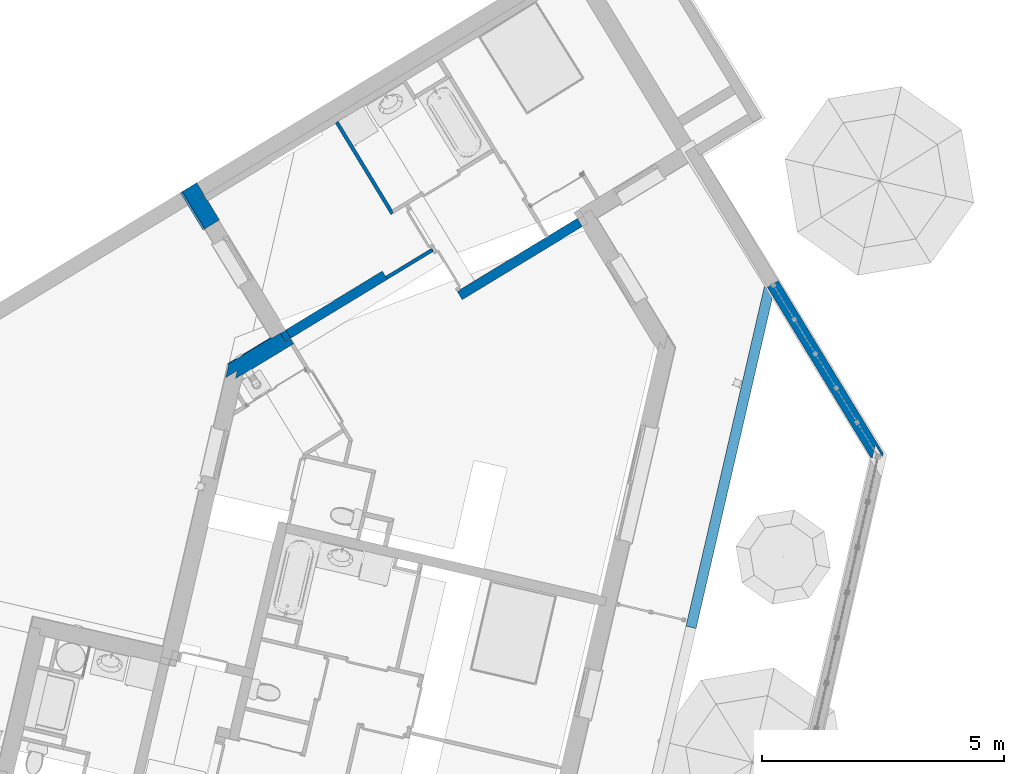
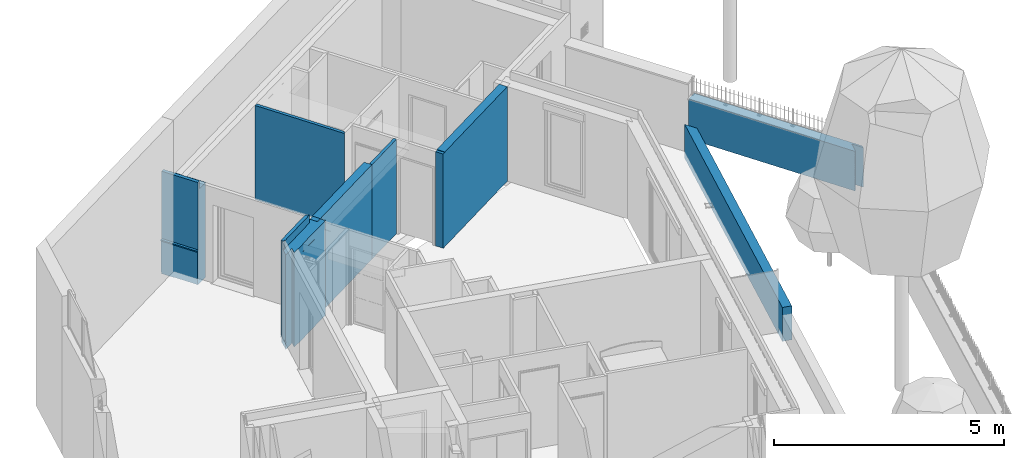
# One storey, part 62 of 119: 9 walls.
"""IFC2X3 building model written with IfcOpenShell, lengths in metres."""

from ifc_helpers import new_model, entity, si_unit, converted_unit, derived_unit, money_unit, direction, frame, origin_with_axes, place, context, subcontext, project, spatial, faceted_brep, material, material_list, type_object, element, save


model = new_model("IFC2X3")

# Units and contexts
model_context = context("Model", 3, precision=1e-05, world=origin_with_axes(), true_north=direction((0.0, 1.0)))
body_context = subcontext(model_context, "Body", "Model", "MODEL_VIEW")
ifc_project = project(units=[si_unit("LENGTHUNIT", "METRE"), si_unit("AREAUNIT", "SQUARE_METRE"), si_unit("VOLUMEUNIT", "CUBIC_METRE"), converted_unit("PLANEANGLEUNIT", "DEGREE", entity("IfcPlaneAngleMeasure", 0.0174532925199), si_unit("PLANEANGLEUNIT", "RADIAN"), dimensions=[0, 0, 0, 0, 0, 0, 0]), si_unit("SOLIDANGLEUNIT", "STERADIAN"), money_unit("EUR"), converted_unit("TIMEUNIT", "Year", entity("IfcTimeMeasure", 31556926.0), si_unit("TIMEUNIT", "SECOND"), dimensions=[0, 0, 1, 0, 0, 0, 0]), si_unit("MASSUNIT", "GRAM", prefix="KILO"), si_unit("THERMODYNAMICTEMPERATUREUNIT", "DEGREE_CELSIUS"), si_unit("LUMINOUSINTENSITYUNIT", "LUMEN"), si_unit("ENERGYUNIT", "JOULE", prefix="MEGA"), derived_unit("THERMALCONDUCTANCEUNIT", [(si_unit("POWERUNIT", "WATT"), 1), (si_unit("LENGTHUNIT", "METRE"), -1), (si_unit("THERMODYNAMICTEMPERATUREUNIT", "KELVIN"), -1)]), derived_unit("SPECIFICHEATCAPACITYUNIT", [(si_unit("ENERGYUNIT", "JOULE"), 1), (si_unit("MASSUNIT", "GRAM", prefix="KILO"), -1), (si_unit("THERMODYNAMICTEMPERATUREUNIT", "KELVIN"), -1)]), derived_unit("MASSDENSITYUNIT", [(si_unit("MASSUNIT", "GRAM", prefix="KILO"), 1), (si_unit("VOLUMEUNIT", "CUBIC_METRE"), -1)])], contexts=[model_context])

# Site, building, storey
site_placement = place(None, origin_with_axes())
site = spatial("IfcSite", under=ifc_project, at=site_placement, Name="Site", CompositionType="ELEMENT")
building_placement = place(site_placement, origin_with_axes())
building = spatial("IfcBuilding", under=site, at=building_placement, Name="Bâtiment", CompositionType="ELEMENT")
storey_placement = place(building_placement, origin_with_axes())
storey = spatial("IfcBuildingStorey", under=building, at=storey_placement, Name="Rez-de-chaussée", CompositionType="ELEMENT", Elevation=0.0)

# Walls
ifc_material_1 = material(Name="Finition int - Plaque de plâtre")
ifc_material_2 = material(Name="Isolation - Laine de roche")
ifc_material_list_1 = material_list([ifc_material_1, ifc_material_2, ifc_material_1])
wall_type_1 = type_object("IfcWallType", Name="3 - Cloison 72mm Placostil 74", PredefinedType="USERDEFINED")
wall_1_placement = place(storey_placement, frame((-4.6808075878, 22.6813548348, 0.0), z_axis=(0.0, 0.0, 1.0), x_axis=(0.519386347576, -0.854539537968, 0.0)))
element("IfcWall", 1, at=wall_1_placement, inside=storey, type_object=wall_type_1, material=ifc_material_list_1, Name="Cloison Placostil 72/48", ObjectType="PARTITIONING", context=body_context, shape_type="Brep", body=[
    faceted_brep([(2.23260722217, 0.074, 0.0), (0.0848634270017, 0.074, 0.0), (0.0848634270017, 0.074, 2.5), (2.23260722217, 0.074, 2.5), (2.23260722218, 0.061, 0.0), (0.0848634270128, 0.061, 0.0), (0.0848634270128, 0.061, 2.5), (2.23260722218, 0.061, 2.5)], [[[0, 1, 2, 3]], [[4, 5, 1, 0]], [[5, 6, 2, 1]], [[3, 2, 6, 7]], [[7, 4, 0, 3]], [[7, 6, 5, 4]]]),
    faceted_brep([(2.28060722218, 0.061, 0.0), (0.07486345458, 0.061, 0.0), (0.07486345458, 0.061, 2.5), (2.28060722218, 0.061, 2.5), (2.28060722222, 0.013, 0.0), (0.074863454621, 0.013, 0.0), (0.074863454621, 0.013, 2.5), (2.28060722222, 0.013, 2.5)], [[[0, 1, 2, 3]], [[4, 5, 1, 0]], [[5, 6, 2, 1]], [[3, 2, 6, 7]], [[7, 4, 0, 3]], [[7, 6, 5, 4]]]),
    faceted_brep([(2.29360722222, 0.013, 0.0), (0.0848634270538, 0.013, 0.0), (0.0848634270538, 0.013, 2.5), (2.29360722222, 0.013, 2.5), (2.29360722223, 0.0, 0.0), (0.084863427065, 0.0, 0.0), (0.084863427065, 0.0, 2.5), (2.29360722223, 0.0, 2.5)], [[[0, 1, 2, 3]], [[4, 5, 1, 0]], [[5, 6, 2, 1]], [[3, 2, 6, 7]], [[7, 4, 0, 3]], [[7, 6, 5, 4]]]),
])
wall_2_placement = place(storey_placement, frame((-3.56494758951, 19.3871585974, 0.0), z_axis=(0.0, 0.0, 1.0), x_axis=(0.854539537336, 0.519386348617, 0.0)))
element("IfcWall", 2, at=wall_2_placement, inside=storey, type_object=wall_type_1, material=ifc_material_list_1, Name="Cloison Placostil 72/48", ObjectType="PARTITIONING", context=body_context, shape_type="Brep", body=[
    faceted_brep([(1.1053873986, 0.074, 0.0), (1.1053873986, 0.061, 0.0), (0.0, 0.061, 0.0), (0.0, 0.074, 0.0), (1.1053873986, 0.074, 2.5), (1.1053873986, 0.061, 2.5), (0.0, 0.061, 2.5), (0.0, 0.074, 2.5)], [[[0, 1, 2, 3]], [[1, 0, 4, 5]], [[1, 5, 6, 2]], [[7, 3, 2, 6]], [[4, 0, 3, 7]], [[5, 4, 7, 6]]]),
    faceted_brep([(1.1183873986, 0.061, 0.0), (1.11838739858, 0.013, 0.0), (0.0, 0.013, 0.0), (0.0, 0.061, 0.0), (1.1183873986, 0.061, 2.5), (1.11838739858, 0.013, 2.5), (0.0, 0.013, 2.5), (0.0, 0.061, 2.5)], [[[0, 1, 2, 3]], [[1, 0, 4, 5]], [[1, 5, 6, 2]], [[7, 3, 2, 6]], [[4, 0, 3, 7]], [[5, 4, 7, 6]]]),
    faceted_brep([(1.10538739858, 0.013, 0.0), (1.10538739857, 0.0, 0.0), (0.0, 0.0, 0.0), (0.0, 0.013, 0.0), (1.10538739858, 0.013, 2.5), (1.10538739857, 0.0, 2.5), (0.0, 0.0, 2.5), (0.0, 0.013, 2.5)], [[[0, 1, 2, 3]], [[1, 0, 4, 5]], [[1, 5, 6, 2]], [[7, 3, 2, 6]], [[4, 0, 3, 7]], [[5, 4, 7, 6]]]),
])
ifc_material_3 = material(Name="Finition int - Enduit plâtre")
ifc_material_4 = material(Name="Béton")
ifc_material_list_2 = material_list([ifc_material_3, ifc_material_4, ifc_material_3])
wall_type_2 = type_object("IfcWallType", Name="2 - Murs Béton 18 + Enduit 2 Faces 200", PredefinedType="USERDEFINED")
wall_3_placement = place(storey_placement, frame((0.460673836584, 20.4759744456, 0.0), z_axis=(0.0, 0.0, 1.0), x_axis=(-0.854539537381, -0.519386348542, 0.0)))
element("IfcWall", 3, at=wall_3_placement, inside=storey, type_object=wall_type_2, material=ifc_material_list_2, Name="M_Ext-008", ObjectType="SOLIDWALL", context=body_context, shape_type="Brep", body=[
    faceted_brep([(0.0, -0.01, 2.51), (0.0, 0.0, 2.51), (0.0, 0.0, 0.0), (0.0, -0.01, 0.0), (2.82618136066, 0.0, 2.51), (2.82618136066, -0.01, 2.51), (2.82618136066, 0.0, 2.5), (2.90018136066, 0.0, 2.5), (2.90018136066, 0.0, 0.0), (2.90018136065, -0.01, 0.0), (2.90018136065, -0.01, 2.5), (2.82618136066, -0.01, 2.5)], [[[0, 1, 2, 3]], [[4, 1, 0, 5]], [[1, 4, 6, 7, 8, 2]], [[2, 8, 9, 3]], [[5, 0, 3, 9, 10, 11]], [[4, 5, 11, 6]], [[11, 10, 7, 6]], [[9, 8, 7, 10]]]),
    faceted_brep([(0.0, -0.19, 2.51), (0.0, -0.01, 2.51), (0.0, -0.01, 0.0), (0.0, -0.19, 0.0), (2.82618136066, -0.01, 2.51), (2.82618136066, -0.19, 2.51), (2.82618136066, -0.01, 2.5), (2.90018136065, -0.01, 2.5), (2.90018136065, -0.01, 0.0), (2.90018136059, -0.19, 0.0), (2.90018136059, -0.19, 2.5), (2.82618136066, -0.19, 2.5)], [[[0, 1, 2, 3]], [[4, 1, 0, 5]], [[1, 4, 6, 7, 8, 2]], [[2, 8, 9, 3]], [[5, 0, 3, 9, 10, 11]], [[4, 5, 11, 6]], [[11, 10, 7, 6]], [[9, 8, 7, 10]]]),
    faceted_brep([(0.0, -0.2, 2.51), (0.0, -0.19, 2.51), (0.0, -0.19, 0.0), (0.0, -0.2, 0.0), (2.82618136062, -0.19, 2.51), (2.82618136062, -0.2, 2.51), (2.82618136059, -0.19, 2.5), (2.82618136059, -0.19, 0.0), (2.82618136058, -0.2, 0.0), (2.82618136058, -0.2, 2.5)], [[[0, 1, 2, 3]], [[4, 1, 0, 5]], [[1, 4, 6, 7, 2]], [[2, 7, 8, 3]], [[5, 0, 3, 8, 9]], [[4, 5, 9, 6]], [[8, 7, 6, 9]]]),
])
wall_4_placement = place(storey_placement, frame((-5.6582784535, 18.3366933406, 0.0), z_axis=(0.0, 0.0, 1.0), x_axis=(0.854539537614, 0.51938634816, 0.0)))
element("IfcWall", 4, at=wall_4_placement, inside=storey, type_object=wall_type_2, material=ifc_material_list_2, Name="M_Ext-008", ObjectType="SOLIDWALL", context=body_context, shape_type="Brep", body=[
    faceted_brep([(2.33443130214, 0.01, 2.51), (2.33443130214, 0.0, 2.51), (2.33443130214, 0.0, 0.0), (2.33443130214, 0.01, 0.0), (0.0, 0.0, 2.51), (0.0, 0.01, 2.51), (0.0, 0.0, 0.0), (0.0, 0.01, 0.0)], [[[0, 1, 2, 3]], [[4, 1, 0, 5]], [[1, 4, 6, 2]], [[7, 3, 2, 6]], [[5, 0, 3, 7]], [[4, 5, 7, 6]]]),
    faceted_brep([(2.33443130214, 0.0, 2.51), (2.33443130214, -0.18, 2.51), (2.33443130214, -0.18, 0.0), (2.33443130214, 0.0, 0.0), (0.0, -0.18, 2.51), (0.0, 0.0, 2.51), (0.0, -0.18, 0.0), (0.0, 0.0, 0.0)], [[[0, 1, 2, 3]], [[4, 1, 0, 5]], [[1, 4, 6, 2]], [[7, 3, 2, 6]], [[5, 0, 3, 7]], [[4, 5, 7, 6]]]),
    faceted_brep([(2.33443130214, -0.18, 2.51), (2.33443130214, -0.19, 2.51), (2.33443130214, -0.19, 0.0), (2.33443130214, -0.18, 0.0), (0.0, -0.19, 2.51), (0.0, -0.18, 2.51), (0.0, -0.19, 0.0), (0.0, -0.18, 0.0)], [[[0, 1, 2, 3]], [[4, 1, 0, 5]], [[1, 4, 6, 2]], [[7, 3, 2, 6]], [[5, 0, 3, 7]], [[4, 5, 7, 6]]]),
])
wall_type_3 = type_object("IfcWallType", Name="Béton 180", PredefinedType="USERDEFINED")
wall_5_placement = place(storey_placement, frame((-5.76936854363, 18.2691731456, 0.0), z_axis=(0.0, 0.0, 1.0), x_axis=(0.854539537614, 0.51938634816, 0.0)))
element("IfcWall", 5, at=wall_5_placement, inside=storey, type_object=wall_type_3, material=ifc_material_4, Name="M_Ext-008", ObjectType="SOLIDWALL", context=body_context, shape_type="Brep", body=[
    faceted_brep([(0.129999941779, 0.0, 0.0), (0.129999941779, 0.0, 2.51), (0.129999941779, -0.18, 2.51), (0.129999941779, -0.18, 0.0), (0.0, 0.0, 0.0), (0.0, 0.0, 2.51), (0.0, -0.18, 2.51), (0.0, -0.18, 0.0)], [[[0, 1, 2, 3]], [[4, 5, 1, 0]], [[5, 6, 2, 1]], [[3, 2, 6, 7]], [[7, 4, 0, 3]], [[7, 6, 5, 4]]]),
])
ifc_material_5 = material(Name="Isolation - Polystyrène extrudé")
ifc_material_6 = material(Name="Bloc ELITHERM")
ifc_material_7 = material(Name="Isolation - Polystyrène expansé")
ifc_material_8 = material(Name="Mortier")
ifc_material_9 = material(Name="Béton cellulaire")
ifc_material_10 = material(Name="Etanchéité - Bitume")
ifc_material_11 = material(Name="Finition ext - Crépis")
ifc_material_12 = material(Name="Métal - Aluminium")
ifc_material_list_3 = material_list([ifc_material_1, ifc_material_5, ifc_material_6, ifc_material_7, ifc_material_8, ifc_material_9, ifc_material_10, ifc_material_11, ifc_material_12])
wall_type_4 = type_object("IfcWallType", Name="Mur ALKERN + planelle 21 TERRASSE RDC 356 x 2720", PredefinedType="USERDEFINED")
wall_6_placement = place(storey_placement, frame((-5.98668813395, 18.1838958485, 0.0), z_axis=(0.0, 0.0, 1.0), x_axis=(-0.854539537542, -0.519386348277, 0.0)))
element("IfcWall", 6, at=wall_6_placement, inside=storey, type_object=wall_type_4, material=ifc_material_list_3, Name="Mue bloc ALKERN isolé", ObjectType="SOLIDWALL", context=body_context, shape_type="Brep", body=[
    faceted_brep([(0.662427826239, 0.359999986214, 2.50955001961), (0.66243211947, 0.352858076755, 2.50955001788), (-0.360000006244, 0.359999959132, 2.50955002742), (-0.360000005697, 0.350000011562, 2.50955002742), (0.878801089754, 0.350000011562, 2.50955001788), (0.888555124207, 0.359999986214, 2.50955001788), (0.662427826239, 0.359999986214, 2.31), (0.66243211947, 0.352858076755, 2.31), (-0.360000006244, 0.359999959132, 2.31), (-0.360000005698, 0.359999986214, 0.0), (-0.360000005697, 0.350000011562, 0.0), (0.878801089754, 0.350000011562, 0.176532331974), (0.878801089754, 0.350000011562, 0.207793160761), (0.878801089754, 0.350000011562, 0.0), (0.878801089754, 0.350000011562, 0.133633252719), (0.878801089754, 0.350000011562, 0.160000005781), (0.878801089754, 0.350000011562, 0.169414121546), (0.888555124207, 0.359999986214, 0.207793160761), (0.888555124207, 0.359999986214, 0.176532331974), (0.888555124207, 0.359999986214, 0.169414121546), (0.888555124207, 0.359999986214, 0.160000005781), (0.888555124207, 0.359999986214, 0.133633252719), (0.888555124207, 0.359999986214, 0.0)], [[[0, 1, 2, 3, 4, 5]], [[1, 0, 6, 7]], [[8, 2, 1, 7]], [[2, 8, 9, 10, 3]], [[11, 12, 4, 3, 10, 13, 14, 15, 16]], [[17, 5, 4, 12]], [[6, 0, 5, 17, 18, 19, 20, 21, 22, 9, 8]], [[6, 8, 7]], [[22, 13, 10, 9]], [[18, 17, 12, 11]], [[14, 13, 22, 21]], [[15, 14, 21, 20]], [[19, 16, 15, 20]], [[18, 11, 16, 19]]]),
    faceted_brep([(-0.350000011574, 0.350000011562, 0.176532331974), (-0.350000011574, 0.350000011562, 0.207793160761), (-0.350000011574, 0.350000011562, 2.50955001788), (1.04643285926, 0.350000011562, 2.50955001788), (1.04643285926, 0.350000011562, 0.207793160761), (1.04643285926, 0.350000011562, 0.176532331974), (1.04643285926, 0.350000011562, 0.169414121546), (1.04643285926, 0.350000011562, 0.160000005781), (1.04643285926, 0.350000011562, 0.133633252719), (1.04643285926, 0.350000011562, 0.0), (-0.350000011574, 0.350000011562, 0.0), (-0.350000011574, 0.350000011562, 0.133633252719), (-0.350000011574, 0.350000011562, 0.160000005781), (-0.350000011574, 0.350000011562, 0.169414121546), (-0.35000001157, 0.22999997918, 0.176532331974), (-0.35000001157, 0.22999997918, 0.207793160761), (-0.35000001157, 0.22999997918, 2.50955001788), (0.929384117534, 0.22999997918, 2.50955001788), (0.929384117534, 0.22999997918, 0.207793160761), (0.929384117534, 0.22999997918, 0.176532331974), (0.929384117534, 0.22999997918, 0.169414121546), (0.929384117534, 0.22999997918, 0.160000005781), (0.929384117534, 0.22999997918, 0.133633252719), (0.929384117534, 0.22999997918, 0.0), (-0.35000001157, 0.22999997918, 0.0), (-0.35000001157, 0.22999997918, 0.133633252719), (-0.35000001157, 0.22999997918, 0.160000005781), (-0.35000001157, 0.22999997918, 0.169414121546)], [[[0, 1, 2, 3, 4, 5, 6, 7, 8, 9, 10, 11, 12, 13]], [[14, 15, 1, 0]], [[15, 16, 2, 1]], [[3, 2, 16, 17]], [[18, 4, 3, 17]], [[19, 5, 4, 18]], [[6, 5, 19, 20]], [[7, 6, 20, 21]], [[7, 21, 22, 8]], [[8, 22, 23, 9]], [[24, 10, 9, 23]], [[11, 10, 24, 25]], [[12, 11, 25, 26]], [[27, 13, 12, 26]], [[14, 0, 13, 27]], [[17, 16, 15, 14, 27, 26, 25, 24, 23, 22, 21, 20, 19, 18]]]),
    faceted_brep([(-0.229999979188, 0.229999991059, 0.207793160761), (-0.229999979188, 0.229999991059, 2.50955001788), (1.20877035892, 0.229999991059, 2.50955), (1.20877030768, 0.229999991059, 0.207793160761), (1.20731000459, 0.229999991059, 0.207793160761), (1.20731000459, 0.229999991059, 0.176532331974), (1.20731000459, 0.229999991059, 0.169727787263), (1.2087703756, 0.229999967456, 0.169414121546), (1.20877033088, 0.229999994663, 0.160000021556), (1.20877033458, 0.229999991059, 0.133633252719), (1.20877033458, 0.229999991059, 0.0), (-0.229999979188, 0.229999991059, 0.0), (-0.229999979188, 0.229999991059, 0.133633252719), (-0.229999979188, 0.229999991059, 0.160000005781), (-0.229999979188, 0.229999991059, 0.169414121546), (-0.229999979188, 0.229999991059, 0.176532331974), (-0.229999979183, 0.0979999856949, 2.50955001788), (-0.229999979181, 0.0310453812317, 0.207793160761), (-0.229999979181, 0.03, 0.207793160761), (-0.229999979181, 0.03, 2.50955001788), (1.08001677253, 0.0979999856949, 2.50955), (1.01368918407, 0.03, 2.50955), (1.01368913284, 0.03, 0.207793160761), (1.01470880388, 0.0310453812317, 0.207793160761), (1.01324850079, 0.0310453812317, 0.207793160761), (1.01324850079, 0.0310453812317, 0.176532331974), (1.01324850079, 0.0310453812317, 0.169727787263), (1.01368920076, 0.029999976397, 0.169414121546), (1.01368916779, 0.0300000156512, 0.160000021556), (1.01368917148, 0.0300000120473, 0.133633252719), (1.01368915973, 0.03, 0.0), (-0.229999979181, 0.03, 0.0), (-0.229999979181, 0.0300000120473, 0.133633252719), (-0.229999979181, 0.0300000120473, 0.160000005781), (-0.229999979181, 0.0300000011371, 0.169414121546), (-0.229999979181, 0.0310453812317, 0.169727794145), (-0.229999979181, 0.0310453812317, 0.176532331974)], [[[0, 1, 2, 3, 4, 5, 6, 7, 8, 9, 10, 11, 12, 13, 14, 15]], [[16, 1, 0, 17, 18, 19]], [[1, 16, 20, 2]], [[3, 2, 20, 21, 22, 23]], [[24, 4, 3, 23]], [[4, 24, 25, 5]], [[6, 5, 25, 26]], [[6, 26, 27, 7]], [[8, 7, 27, 28]], [[8, 28, 29, 9]], [[9, 29, 30, 10]], [[11, 10, 30, 31]], [[11, 31, 32, 12]], [[12, 32, 33, 13]], [[14, 13, 33, 34]], [[14, 34, 35, 36, 15]], [[17, 0, 15, 36]], [[18, 17, 24, 23, 22]], [[19, 18, 22, 21]], [[16, 19, 21, 20]], [[26, 25, 24, 17, 36, 35]], [[34, 27, 26, 35]], [[28, 27, 34, 33]], [[29, 28, 33, 32, 31, 30]]]),
    faceted_brep([(-0.0980000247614, 0.0780000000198, 2.51999998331), (0.993455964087, 0.0780000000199, 2.51999999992), (0.993455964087, 0.0780000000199, 2.72), (-0.0980000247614, 0.0780000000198, 2.72), (-0.0980000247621, 0.0980000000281, 2.51999998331), (1.01296408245, 0.0980000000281, 2.51999999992), (1.01296408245, 0.0980000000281, 2.72), (-0.0980000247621, 0.0980000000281, 2.72)], [[[0, 1, 2, 3]], [[4, 5, 1, 0]], [[5, 6, 2, 1]], [[3, 2, 6, 7]], [[4, 0, 3, 7]], [[7, 6, 5, 4]]]),
    faceted_brep([(1.01368918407, 0.03, 2.50955), (1.01368918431, 0.03, 2.51999999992), (-0.0980000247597, 0.03, 2.51999998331), (-0.0979999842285, 0.03, 2.50955002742), (1.08001678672, 0.098, 2.51999999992), (1.08001678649, 0.098, 2.50955), (-0.0980000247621, 0.098, 2.51999998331), (-0.0979999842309, 0.098, 2.50955002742)], [[[0, 1, 2, 3]], [[4, 1, 0, 5]], [[1, 4, 6, 2]], [[2, 6, 7, 3]], [[5, 0, 3, 7]], [[4, 5, 7, 6]]]),
    faceted_brep([(-0.0780000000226, 0.0780000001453, 2.51999999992), (-0.0780000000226, 0.0780000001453, 2.72), (1.06050867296, 0.0780000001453, 2.72), (1.0605086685, 0.0780000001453, 2.51999999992), (-0.0780000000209, 0.03, 2.72), (-0.0780000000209, 0.03, 2.51999999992), (1.01368918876, 0.03, 2.72), (1.01368918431, 0.03, 2.51999999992)], [[[0, 1, 2, 3]], [[4, 1, 0, 5]], [[1, 4, 6, 2]], [[2, 6, 7, 3]], [[5, 0, 3, 7]], [[4, 5, 7, 6]]]),
    faceted_brep([(1.02765848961, 0.0300000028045, 0.01), (1.01368916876, 0.0300000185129, 0.01), (-0.030000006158, 0.0300000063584, 0.01), (-0.0300000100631, 0.0300000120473, 0.133633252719), (-0.0300000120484, 0.0300000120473, 0.160000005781), (1.02765850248, 0.0300000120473, 0.160000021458), (1.02765849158, 0.0300000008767, 0.133633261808), (-0.0300001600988, 0.02, 0.01), (1.01790442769, 0.02, 0.01), (-0.0300000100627, 0.02, 0.133633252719), (-0.030000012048, 0.02, 0.160000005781), (1.01790443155, 0.02, 0.160000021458), (1.0179044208, 0.0199999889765, 0.133633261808)], [[[0, 1, 2, 3, 4, 5, 6]], [[7, 2, 1, 0, 8]], [[2, 7, 9, 3]], [[4, 3, 9, 10]], [[10, 11, 5, 4]], [[11, 12, 6, 5]], [[8, 0, 6, 12]], [[7, 8, 12, 11, 10, 9]]]),
    faceted_brep([(-0.0300000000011, 0.0299999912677, 2.72), (1.03464314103, 0.0299999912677, 2.72), (1.03464318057, 0.0300000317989, 0.176532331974), (-0.0300000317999, 0.0300000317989, 0.176532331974), (-0.0300000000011, 0.0300000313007, 0.207793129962), (-0.0300000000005, 0.0150000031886, 2.72), (1.02001206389, 0.0150000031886, 2.72), (1.02001206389, 0.0150000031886, 0.176532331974), (-0.0300000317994, 0.0150000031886, 0.176532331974), (-0.0300000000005, 0.0150000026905, 0.207793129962)], [[[0, 1, 2, 3, 4]], [[1, 0, 5, 6]], [[7, 2, 1, 6]], [[7, 8, 3, 2]], [[8, 9, 4, 3]], [[9, 5, 0, 4]], [[6, 5, 9, 8, 7]]]),
    faceted_brep([(-0.0310453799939, 0.0310453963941, 0.176532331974), (-0.0310453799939, 0.0310453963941, 0.207793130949), (1.01470881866, 0.0310453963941, 0.207793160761), (1.01470881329, 0.0310453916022, 0.176532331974), (1.01470880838, 0.0310453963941, 0.170774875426), (1.01963929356, 0.0310453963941, 0.169727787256), (-0.0310453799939, 0.0310453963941, 0.169727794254), (-0.0310453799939, 0.03, 0.207793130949), (-0.0310453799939, 0.0300000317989, 0.176532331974), (1.01368913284, 0.03, 0.207793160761), (1.01368915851, 0.0300000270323, 0.176532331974), (1.0136891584, 0.0300000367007, 0.170774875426), (1.02483397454, 0.0035607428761, 0.162931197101), (1.02954457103, 0.00839011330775, 0.162931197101), (1.02009653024, 0.03, 0.169414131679), (-0.0300000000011, 0.03, 0.169414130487), (-0.0310453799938, 0.0264705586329, 0.169727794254), (-0.0310453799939, 0.0300000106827, 0.170774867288), (-0.0083901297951, 0.0035607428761, 0.162931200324), (-0.0300000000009, 0.0254132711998, 0.169414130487), (1.02603770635, 0.00479482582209, 0.133633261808), (1.02603770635, 0.00479482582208, 0.161852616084), (1.02483397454, 0.0035607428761, 0.133633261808), (-0.00479484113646, 0.00479482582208, 0.161852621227), (-0.00479484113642, 0.0035607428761, 0.161852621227), (-0.00479484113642, 0.0035607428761, 0.160000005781), (-0.00479484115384, 0.0035607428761, 0.133633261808), (-0.00479484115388, 0.00479482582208, 0.133633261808), (-0.00479484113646, 0.00479482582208, 0.160000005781)], [[[0, 1, 2, 3, 4, 5, 6]], [[7, 1, 0, 8]], [[1, 7, 9, 2]], [[9, 10, 3, 2]], [[10, 11, 4, 3]], [[11, 12, 13, 14, 5, 4]], [[15, 6, 5, 14]], [[8, 0, 6, 16, 17]], [[7, 8, 10, 9]], [[8, 17, 11, 10]], [[18, 12, 11, 17, 16, 19]], [[20, 21, 13, 12, 22]], [[13, 21, 23, 15, 14]], [[6, 15, 19, 16]], [[18, 24, 25, 26, 22, 12]], [[15, 23, 24, 18, 19]], [[20, 27, 28, 23, 21]], [[27, 20, 22, 26]], [[28, 25, 24, 23]], [[28, 27, 26, 25]]]),
])
ifc_material_13 = material(Name="Etanchéité résine")
ifc_material_14 = material(Name="Couche - Drainage")
ifc_material_list_4 = material_list([ifc_material_1, ifc_material_5, ifc_material_13, ifc_material_4, ifc_material_7, ifc_material_8, ifc_material_9, ifc_material_8, ifc_material_11, ifc_material_10, ifc_material_14, ifc_material_12])
wall_type_5 = type_object("IfcWallType", Name="Mur BETON + planelle 21 contre terre 1M (1) 396 x 2720", PredefinedType="USERDEFINED")
wall_7_placement = place(storey_placement, frame((-7.81488533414, 21.1919009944, 0.0), z_axis=(0.0, 0.0, 1.0), x_axis=(0.519386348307, -0.854539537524, 0.0)))
element("IfcWall", 7, at=wall_7_placement, inside=storey, type_object=wall_type_5, material=ifc_material_list_4, Name="M_Ext-007", ObjectType="SOLIDWALL", context=body_context, shape_type="Brep", body=[
    faceted_brep([(0.0, 0.35999998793, 2.51), (0.299863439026, 0.35999998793, 2.5100000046), (0.299863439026, 0.369999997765, 2.51000000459), (0.0, 0.369999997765, 2.51), (0.0, 0.35999998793, 0.0), (0.299863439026, 0.35999998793, 0.0), (0.299863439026, 0.369999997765, 0.0), (0.0, 0.369999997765, 0.0)], [[[0, 1, 2, 3]], [[1, 0, 4, 5]], [[6, 2, 1, 5]], [[3, 2, 6, 7]], [[7, 4, 0, 3]], [[7, 6, 5, 4]]]),
    faceted_brep([(0.429863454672, 0.369999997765, 2.51000000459), (0.900367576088, 0.369999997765, 2.51), (0.900367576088, 0.369999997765, 0.0), (0.429863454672, 0.369999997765, 0.0), (0.429863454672, 0.35999998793, 2.5100000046), (0.900367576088, 0.35999998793, 2.51), (0.900367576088, 0.35999998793, 0.0), (0.429863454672, 0.35999998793, 0.0)], [[[0, 1, 2, 3]], [[1, 0, 4, 5]], [[5, 6, 2, 1]], [[6, 7, 3, 2]], [[7, 4, 0, 3]], [[5, 4, 7, 6]]]),
    faceted_brep([(0.0, 0.239999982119, 2.51), (0.299863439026, 0.239999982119, 2.51000000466), (0.299863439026, 0.35999998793, 2.5100000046), (0.0, 0.35999998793, 2.51), (0.0, 0.239999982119, 0.0), (0.299863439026, 0.239999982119, 0.0), (0.299863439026, 0.35999998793, 0.0), (0.0, 0.35999998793, 0.0)], [[[0, 1, 2, 3]], [[1, 0, 4, 5]], [[6, 2, 1, 5]], [[3, 2, 6, 7]], [[7, 4, 0, 3]], [[7, 6, 5, 4]]]),
    faceted_brep([(0.309863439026, 0.35999998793, 2.5100000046), (0.900367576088, 0.35999998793, 2.51), (0.900367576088, 0.35999998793, 0.0), (0.309863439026, 0.35999998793, 0.0), (0.309863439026, 0.239999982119, 2.51000000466), (0.900367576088, 0.239999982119, 2.51), (0.900367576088, 0.239999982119, 0.0), (0.309863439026, 0.239999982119, 0.0)], [[[0, 1, 2, 3]], [[1, 0, 4, 5]], [[5, 6, 2, 1]], [[6, 7, 3, 2]], [[7, 4, 0, 3]], [[5, 4, 7, 6]]]),
    faceted_brep([(0.900367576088, 0.239999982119, 0.0), (0.0, 0.239999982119, 0.0), (0.0, 0.239999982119, 2.51), (0.900367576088, 0.239999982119, 2.51), (0.900367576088, 0.230000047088, 0.0), (0.0, 0.230000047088, 0.0), (0.0, 0.230000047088, 2.51), (0.900367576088, 0.230000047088, 2.51)], [[[0, 1, 2, 3]], [[4, 5, 1, 0]], [[5, 6, 2, 1]], [[3, 2, 6, 7]], [[7, 4, 0, 3]], [[7, 6, 5, 4]]]),
    faceted_brep([(0.900367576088, 0.23000002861, 2.50999999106), (0.900367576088, 0.23000002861, 0.0), (0.0, 0.23000002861, 0.0), (0.0, 0.23000002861, 2.50999999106), (0.900367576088, 0.0979999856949, 2.50999999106), (0.900367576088, 0.03, 2.50999999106), (0.900367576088, 0.03, 0.967793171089), (0.900367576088, 0.0310454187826, 0.967793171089), (0.900367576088, 0.0310454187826, 0.929727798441), (0.900367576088, 0.03, 0.929581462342), (0.900367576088, 0.03, 0.919999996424), (0.900367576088, 0.03, 0.0), (0.0, 0.03, 0.0), (0.0, 0.03, 0.967793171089), (0.0, 0.03, 2.50999999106), (0.0, 0.0979999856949, 2.50999999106), (0.0, 0.03, 0.919999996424), (0.0, 0.03, 0.929581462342), (0.0, 0.0310454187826, 0.929727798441), (0.0, 0.0310454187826, 0.967793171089)], [[[0, 1, 2, 3]], [[1, 0, 4, 5, 6, 7, 8, 9, 10, 11]], [[1, 11, 12, 2]], [[13, 14, 15, 3, 2, 12, 16, 17, 18, 19]], [[4, 0, 3, 15]], [[5, 4, 15, 14]], [[6, 5, 14, 13]], [[7, 6, 13, 19]], [[8, 7, 19, 18]], [[9, 8, 18, 17]], [[10, 9, 17, 16]], [[11, 10, 16, 12]]]),
    faceted_brep([(0.900367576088, 0.0979499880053, 2.51999998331), (0.900367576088, 0.0979499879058, 2.72), (0.900367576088, 0.0780000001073, 2.72), (0.900367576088, 0.0780000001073, 2.51999999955), (0.0680000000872, 0.0979499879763, 2.72), (0.0680000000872, 0.0979499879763, 2.51999999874), (0.0680000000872, 0.098000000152, 2.72), (0.0, 0.098000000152, 2.72), (0.0, 0.0780000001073, 2.72), (0.0, 0.0780000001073, 2.51999999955), (0.0, 0.098000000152, 2.51999999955), (0.0680000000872, 0.098, 2.51999999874)], [[[0, 1, 2, 3]], [[4, 1, 0, 5]], [[4, 6, 7, 8, 2, 1]], [[3, 2, 8, 9]], [[5, 0, 3, 9, 10, 11]], [[11, 6, 4, 5]], [[6, 11, 10, 7]], [[10, 9, 8, 7]]]),
    faceted_brep([(0.0, 0.098, 2.51), (0.0, 0.098, 2.52), (0.900367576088, 0.098, 2.52), (0.900367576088, 0.098, 2.51), (0.0, 0.03, 2.52), (0.0, 0.03, 2.51), (0.900367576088, 0.03, 2.52), (0.900367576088, 0.03, 2.51)], [[[0, 1, 2, 3]], [[4, 1, 0, 5]], [[1, 4, 6, 2]], [[3, 2, 6, 7]], [[5, 0, 3, 7]], [[4, 5, 7, 6]]]),
    faceted_brep([(0.0, 0.0779999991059, 2.51999999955), (0.0, 0.0779999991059, 2.72), (0.900367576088, 0.0779999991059, 2.72), (0.900367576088, 0.0779999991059, 2.51999999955), (0.0, 0.03, 2.72), (0.0, 0.03, 2.51999999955), (0.900367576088, 0.03, 2.72), (0.900367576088, 0.03, 2.51999999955)], [[[0, 1, 2, 3]], [[4, 1, 0, 5]], [[1, 4, 6, 2]], [[7, 3, 2, 6]], [[5, 0, 3, 7]], [[4, 5, 7, 6]]]),
    faceted_brep([(0.0, 0.03, 0.0), (0.0, 0.03, 0.92), (0.900367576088, 0.03, 0.92), (0.900367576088, 0.03, 0.0), (0.0, 0.025, 0.92), (0.0, 0.025, 0.0), (0.900367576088, 0.025, 0.92), (0.900367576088, 0.025, 0.0)], [[[0, 1, 2, 3]], [[4, 1, 0, 5]], [[1, 4, 6, 2]], [[3, 2, 6, 7]], [[5, 0, 3, 7]], [[4, 5, 7, 6]]]),
    faceted_brep([(0.900367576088, 0.0299999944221, 2.72), (0.900367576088, 0.0299999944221, 0.936532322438), (0.0, 0.0299999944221, 0.936532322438), (0.0, 0.0299999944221, 2.72), (0.900367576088, 0.015000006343, 2.72), (0.900367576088, 0.015000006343, 0.936532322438), (0.0, 0.015000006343, 0.936532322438), (0.0, 0.015000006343, 2.72)], [[[0, 1, 2, 3]], [[4, 5, 1, 0]], [[1, 5, 6, 2]], [[2, 6, 7, 3]], [[4, 0, 3, 7]], [[5, 4, 7, 6]]]),
    faceted_brep([(0.900367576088, 0.0149999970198, 0.01), (0.900367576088, 0.0250000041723, 0.01), (0.900367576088, 0.0250000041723, 0.92), (0.900367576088, 0.0149999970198, 0.92), (0.900367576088, 0.0149999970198, 0.0499999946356), (0.3, 0.0250000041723, 0.01), (0.3, 0.0149999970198, 0.01), (0.3, 0.0250000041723, 0.0), (0.0, 0.0250000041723, 0.0), (0.0, 0.0250000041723, 0.92), (0.0, 0.0149999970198, 0.92), (0.0, 0.0149999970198, 0.0499999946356), (0.0, 0.0149999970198, 0.0), (0.3, 0.0149999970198, 0.0)], [[[0, 1, 2, 3, 4]], [[5, 1, 0, 6]], [[5, 7, 8, 9, 2, 1]], [[3, 2, 9, 10]], [[4, 3, 10, 11]], [[6, 0, 4, 11, 12, 13]], [[7, 5, 6, 13]], [[7, 13, 12, 8]], [[12, 11, 10, 9, 8]]]),
    faceted_brep([(0.0, 0.015, 0.05), (0.0, 0.015, 0.92), (0.900367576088, 0.015, 0.92), (0.900367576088, 0.015, 0.05), (0.0, 0.0, 0.92), (0.0, 0.0, 0.05), (0.900367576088, 0.0, 0.92), (0.900367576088, 0.0, 0.05)], [[[0, 1, 2, 3]], [[4, 1, 0, 5]], [[1, 4, 6, 2]], [[3, 2, 6, 7]], [[5, 0, 3, 7]], [[4, 5, 7, 6]]]),
    faceted_brep([(0.0, 0.0310453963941, 0.929727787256), (0.0, 0.0310453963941, 0.967793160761), (0.900367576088, 0.0310453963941, 0.967793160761), (0.900367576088, 0.0310453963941, 0.929727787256), (0.0, 0.03, 0.967793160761), (0.0, 0.03, 0.929581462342), (0.0, -0.0252051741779, 0.921852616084), (0.0, -0.0252051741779, 0.893633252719), (0.0, -0.0264392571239, 0.893633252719), (0.0, -0.0264392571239, 0.922931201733), (0.0, 0.03, 0.930774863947), (0.0, 0.0299999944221, 0.936532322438), (0.900367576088, 0.03, 0.967793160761), (0.900367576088, 0.0299999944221, 0.936532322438), (0.900367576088, 0.03, 0.930774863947), (0.900367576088, -0.0264392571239, 0.922931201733), (0.900367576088, -0.0264392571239, 0.893633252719), (0.900367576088, -0.0252051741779, 0.893633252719), (0.900367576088, -0.0252051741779, 0.921852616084), (0.900367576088, 0.03, 0.929581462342)], [[[0, 1, 2, 3]], [[4, 1, 0, 5, 6, 7, 8, 9, 10, 11]], [[1, 4, 12, 2]], [[13, 14, 15, 16, 17, 18, 19, 3, 2, 12]], [[5, 0, 3, 19]], [[6, 5, 19, 18]], [[7, 6, 18, 17]], [[8, 7, 17, 16]], [[9, 8, 16, 15]], [[10, 9, 15, 14]], [[11, 10, 14, 13]], [[4, 11, 13, 12]]]),
])
ifc_material_15 = material(Name="Pierre")
ifc_material_16 = material(Name="Parpaing 20cm")
ifc_material_list_5 = material_list([ifc_material_15, ifc_material_16, ifc_material_11])
wall_type_6 = type_object("IfcWallType", Name="1 - Mur PARPAING 20 Endui + parement pierre 1 face 265", PredefinedType="ELEMENTEDWALL")
wall_8_placement = place(storey_placement, frame((4.50916204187, 19.3600550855, 0.548320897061), z_axis=(0.0, 0.0, 1.0), x_axis=(0.519386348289, -0.854539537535, 0.0)))
element("IfcWall", 8, at=wall_8_placement, inside=storey, type_object=wall_type_6, material=ifc_material_list_5, Name="Mur béton 20cm", ObjectType="ELEMENTEDWALL", context=body_context, shape_type="Brep", body=[
    faceted_brep([(4.21940015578, -0.05, 0.0), (0.0, -0.05, 0.0), (0.0, 0.0, 0.0), (4.16775305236, 0.0, 0.0), (4.21940015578, -0.05, 1.05167910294), (0.0, -0.05, 1.05167910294), (0.0, 0.0, 1.05167910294), (4.16775305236, 0.0, 1.05167910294)], [[[0, 1, 2, 3]], [[4, 5, 1, 0]], [[2, 1, 5, 6]], [[3, 2, 6, 7]], [[3, 7, 4, 0]], [[7, 6, 5, 4]]]),
    faceted_brep([(4.13844940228, -0.25, 0.0), (0.0, -0.25, 0.0), (0.0, -0.05, 0.0), (3.93186098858, -0.05, 0.0), (4.13844940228, -0.25, 1.05167910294), (0.0, -0.25, 1.05167910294), (0.0, -0.05, 1.05167910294), (3.93186098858, -0.05, 1.05167910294)], [[[0, 1, 2, 3]], [[4, 5, 1, 0]], [[2, 1, 5, 6]], [[3, 2, 6, 7]], [[3, 7, 4, 0]], [[7, 6, 5, 4]]]),
    faceted_brep([(4.13237809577, -0.265, 0.0), (0.0, -0.265, 0.0), (0.0, -0.25, 0.0), (4.11688396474, -0.25, 0.0), (4.13237809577, -0.265, 1.05167910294), (0.0, -0.265, 1.05167910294), (0.0, -0.25, 1.05167910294), (4.11688396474, -0.25, 1.05167910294)], [[[0, 1, 2, 3]], [[4, 5, 1, 0]], [[2, 1, 5, 6]], [[3, 2, 6, 7]], [[3, 7, 4, 0]], [[7, 6, 5, 4]]]),
])
ifc_material_list_6 = material_list([ifc_material_11, ifc_material_16])
wall_type_7 = type_object("IfcWallType", Name="1 - Mur PARPAING 20  + ravalement 1 face 215", PredefinedType="USERDEFINED")
wall_9_placement = place(storey_placement, frame((4.47936641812, 19.4090706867, 0.0), z_axis=(0.0, 0.0, 1.0), x_axis=(-0.224876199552, -0.974387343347, 0.0)))
element("IfcWall", 9, at=wall_9_placement, inside=storey, type_object=wall_type_7, material=ifc_material_list_6, Name="M_Ext-007", ObjectType="PARAPET", context=body_context, shape_type="Brep", body=[
    faceted_brep([(7.41920101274, -0.015, 0.9), (7.41920101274, 0.0, 0.9), (0.379496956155, 0.0, 0.9), (0.364120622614, -0.015, 0.9), (7.41920101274, -0.015, 0.0), (7.41920101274, 0.0, 0.0), (0.379496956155, 0.0, 0.0), (0.364120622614, -0.015, 0.0)], [[[0, 1, 2, 3]], [[0, 4, 5, 1]], [[1, 5, 6, 2]], [[3, 2, 6, 7]], [[4, 0, 3, 7]], [[5, 4, 7, 6]]]),
    faceted_brep([(7.41920101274, -0.215, 0.9), (7.41920101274, -0.015, 0.9), (0.364120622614, -0.015, 0.9), (0.159102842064, -0.215, 0.9), (7.41920101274, -0.215, 0.0), (7.41920101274, -0.015, 0.0), (0.364120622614, -0.015, 0.0), (0.159102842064, -0.215, 0.0)], [[[0, 1, 2, 3]], [[0, 4, 5, 1]], [[1, 5, 6, 2]], [[3, 2, 6, 7]], [[4, 0, 3, 7]], [[5, 4, 7, 6]]]),
])

save(model, "model.ifc")
